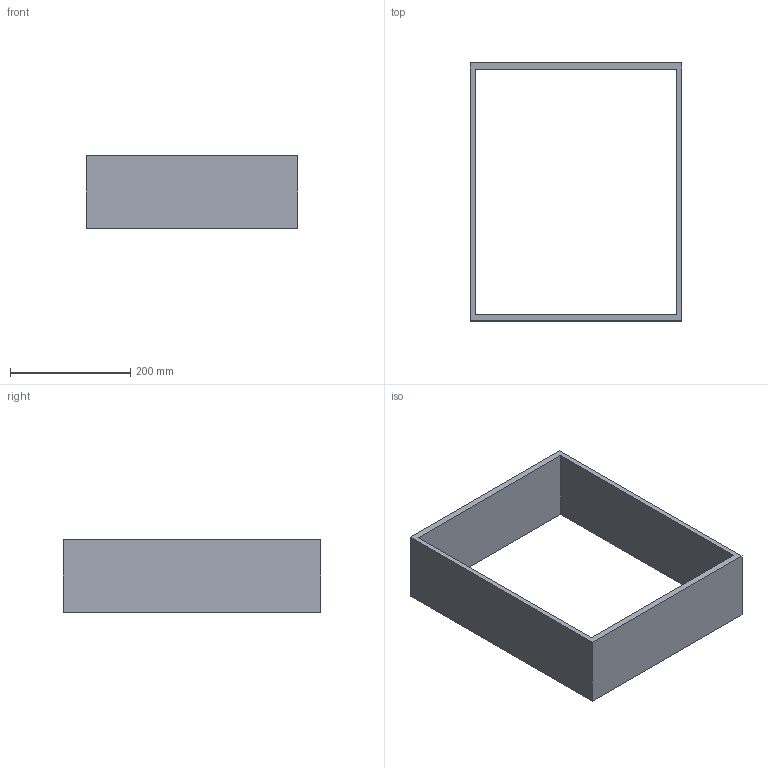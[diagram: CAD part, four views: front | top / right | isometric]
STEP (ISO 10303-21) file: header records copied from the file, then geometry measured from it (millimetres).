
FILE_DESCRIPTION (( 'STEP AP214' ), '1' );
FILE_NAME ('Vario Multi H120 NL450_B450_19 mm_Alu-Alu.step', '2010-10-08T09:47:55', ( 'grass' ), ( '' ), 'SwSTEP 2.0', 'SolidWorks 2010', '' );
FILE_SCHEMA (( 'AUTOMOTIVE_DESIGN' ));
Length unit declared in the file: millimetre
Products named in the file (1): Vario Multi H120 NL450_B450_19 mm_Alu-Alu
Bounding box: 352 x 429 x 120 mm (x, y, z)
Volume: 1710720 mm3; surface area: 394272 mm2
Topology: 1 solids, 1 shells, 10 faces, 24 edges, 16 vertices
Faces by surface type: plane 10
Entity records: 326 total; most frequent: CARTESIAN_POINT 51, ORIENTED_EDGE 48, DIRECTION 46, VECTOR 24, LINE 24, EDGE_CURVE 24, VERTEX_POINT 16, EDGE_LOOP 12
